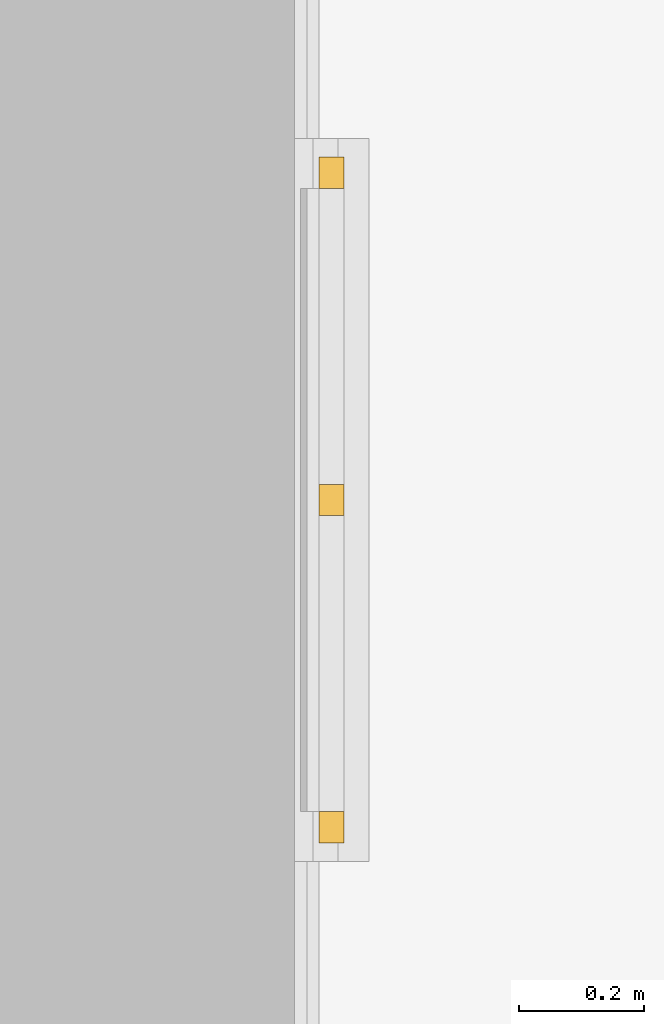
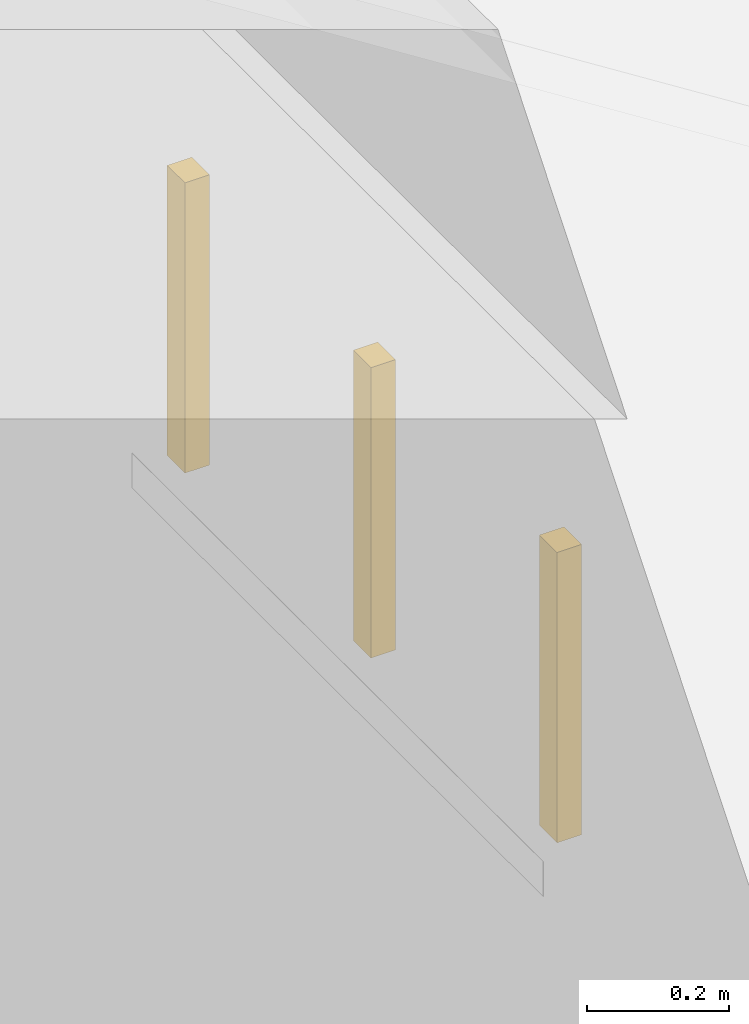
# One storey, part 84 of 177: 3 windows.
"""IFC4 building model written with IfcOpenShell, lengths in metres."""

from ifc_helpers import new_model, si_unit, origin, origin_with_axes, place, context, subcontext, project, spatial, triangles, element, save


model = new_model("IFC4")

# Units and contexts
model_context = context("Model", 3, precision=1e-05, world=origin_with_axes())
body_context = subcontext(model_context, "Body", "Model", "MODEL_VIEW")
ifc_project = project(units=[si_unit("LENGTHUNIT", "METRE"), si_unit("AREAUNIT", "SQUARE_METRE"), si_unit("VOLUMEUNIT", "CUBIC_METRE"), si_unit("PLANEANGLEUNIT", "RADIAN")], contexts=[model_context])

# Site, building, storey
site_placement = place(None, origin_with_axes())
site = spatial("IfcSite", under=ifc_project, at=site_placement, Name="Predio Los Mangos - Morales, San Martín", CompositionType="ELEMENT")
building_placement = place(site_placement, origin())
building = spatial("IfcBuilding", under=site, at=building_placement, Name="Hogar de Refugio Temporal", CompositionType="ELEMENT")
storey_placement = place(building_placement, origin())
storey = spatial("IfcBuildingStorey", under=building, at=storey_placement, Name="NIVEL 1 (NPT +0.00)", CompositionType="ELEMENT", Elevation=0.0)

# Windows
window_1_placement = place(storey_placement, origin())
element("IfcWindow", 1, at=window_1_placement, inside=storey, Name="E-04_vt7_m", ObjectType="Ventana", PredefinedType="WINDOW", context=body_context, shape_type="Tessellation", body=[
    triangles([(24.64, 77.875, 2.45), (24.68, 77.875, 2.45), (24.68, 77.925, 2.45), (24.64, 77.925, 2.45), (24.64, 77.875, 2.95), (24.68, 77.875, 2.95), (24.68, 77.925, 2.95), (24.64, 77.925, 2.95)], [[1, 4, 3], [1, 3, 2], [5, 6, 7], [5, 7, 8], [1, 2, 6], [1, 6, 5], [2, 3, 7], [2, 7, 6], [3, 4, 8], [3, 8, 7], [4, 1, 5], [4, 5, 8]]),
])
window_2_placement = place(storey_placement, origin())
element("IfcWindow", 2, at=window_2_placement, inside=storey, Name="E-04_vt7_m", ObjectType="Ventana", PredefinedType="WINDOW", context=body_context, shape_type="Tessellation", body=[
    triangles([(24.64, 78.925, 2.45), (24.68, 78.925, 2.45), (24.68, 78.975, 2.45), (24.64, 78.975, 2.45), (24.64, 78.925, 2.95), (24.68, 78.925, 2.95), (24.68, 78.975, 2.95), (24.64, 78.975, 2.95)], [[1, 4, 3], [1, 3, 2], [5, 6, 7], [5, 7, 8], [1, 2, 6], [1, 6, 5], [2, 3, 7], [2, 7, 6], [3, 4, 8], [3, 8, 7], [4, 1, 5], [4, 5, 8]]),
])
window_3_placement = place(storey_placement, origin())
element("IfcWindow", 3, at=window_3_placement, inside=storey, Name="E-04_vt7_m", ObjectType="Ventana", PredefinedType="WINDOW", context=body_context, shape_type="Tessellation", body=[
    triangles([(24.64, 78.4, 2.45), (24.68, 78.4, 2.45), (24.68, 78.45, 2.45), (24.64, 78.45, 2.45), (24.64, 78.4, 2.95), (24.68, 78.4, 2.95), (24.68, 78.45, 2.95), (24.64, 78.45, 2.95)], [[1, 4, 3], [1, 3, 2], [5, 6, 7], [5, 7, 8], [1, 2, 6], [1, 6, 5], [2, 3, 7], [2, 7, 6], [3, 4, 8], [3, 8, 7], [4, 1, 5], [4, 5, 8]]),
])

save(model, "model.ifc")
